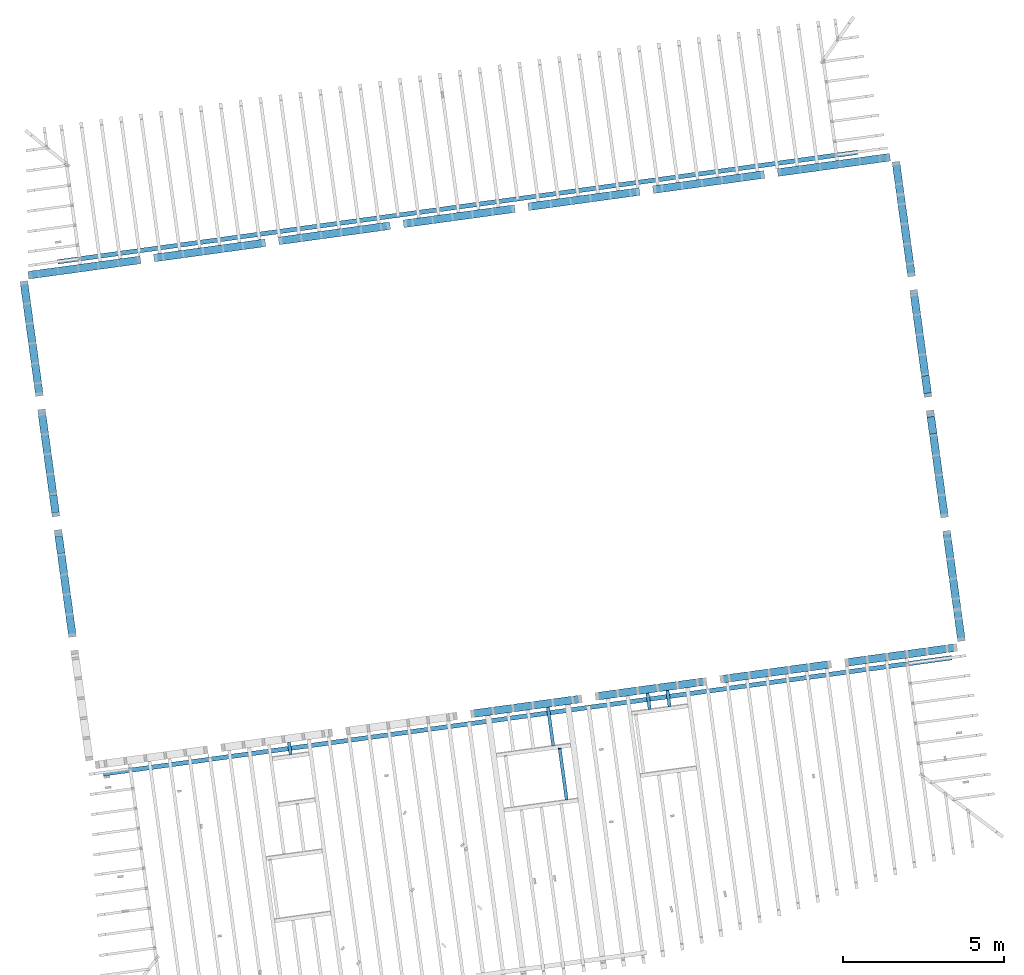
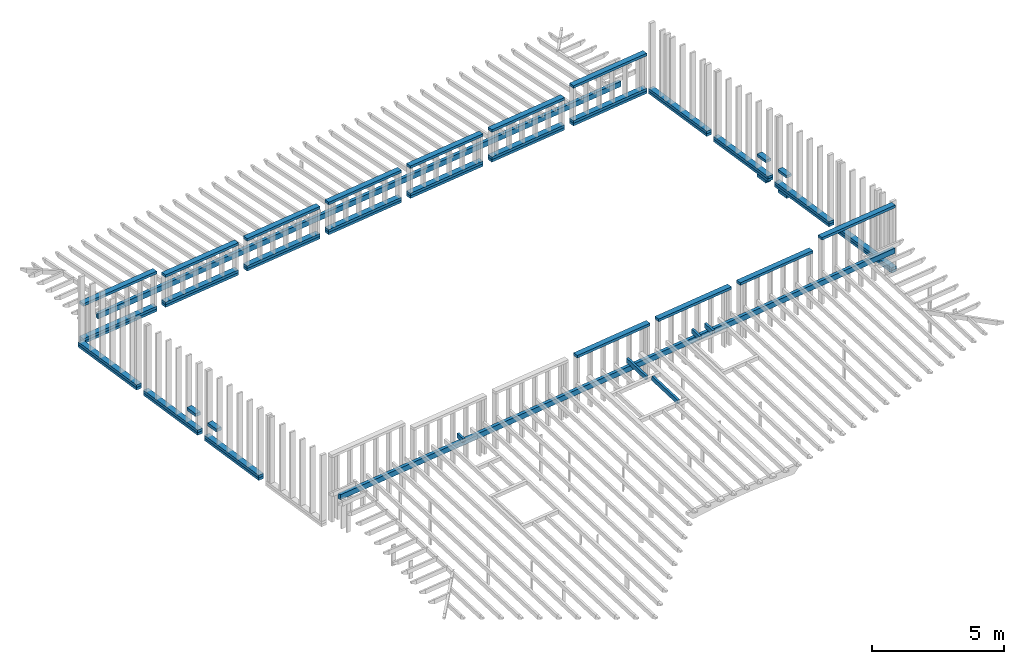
# One storey, part 5 of 16: 52 beams.
"""IFC2X3 building model written with IfcOpenShell, lengths in metres."""

from ifc_helpers import new_model, entity, si_unit, converted_unit, derived_unit, money_unit, direction, frame, frame_2d, origin_with_axes, place, context, subcontext, project, spatial, rectangle, extrude, clip, halfspace, material, type_object, element, save


model = new_model("IFC2X3")

# Units and contexts
model_context = context("Model", 3, precision=1e-05, world=origin_with_axes(), true_north=direction((0.0, 1.0)))
body_context = subcontext(model_context, "Body", "Model", "MODEL_VIEW")
ifc_project = project(units=[si_unit("LENGTHUNIT", "METRE"), si_unit("AREAUNIT", "SQUARE_METRE"), si_unit("VOLUMEUNIT", "CUBIC_METRE"), converted_unit("PLANEANGLEUNIT", "DEGREE", entity("IfcPlaneAngleMeasure", 0.0174532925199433), si_unit("PLANEANGLEUNIT", "RADIAN"), dimensions=[0, 0, 0, 0, 0, 0, 0]), money_unit("EUR"), converted_unit("TIMEUNIT", "Year", entity("IfcTimeMeasure", 31557600.0), si_unit("TIMEUNIT", "SECOND"), dimensions=[0, 0, 1, 0, 0, 0, 0]), si_unit("MASSUNIT", "GRAM", prefix="KILO"), si_unit("THERMODYNAMICTEMPERATUREUNIT", "DEGREE_CELSIUS"), si_unit("LUMINOUSINTENSITYUNIT", "LUMEN"), si_unit("ENERGYUNIT", "JOULE", prefix="MEGA"), derived_unit("THERMALCONDUCTANCEUNIT", [(si_unit("POWERUNIT", "WATT"), 1), (si_unit("LENGTHUNIT", "METRE"), -1), (si_unit("THERMODYNAMICTEMPERATUREUNIT", "KELVIN"), -1)]), derived_unit("SPECIFICHEATCAPACITYUNIT", [(si_unit("ENERGYUNIT", "JOULE"), 1), (si_unit("MASSUNIT", "GRAM", prefix="KILO"), -1), (si_unit("THERMODYNAMICTEMPERATUREUNIT", "KELVIN"), -1)]), derived_unit("MASSDENSITYUNIT", [(si_unit("MASSUNIT", "GRAM", prefix="KILO"), 1), (si_unit("VOLUMEUNIT", "CUBIC_METRE"), -1)])], contexts=[model_context])

# Site, building, storey
site_placement = place(None, origin_with_axes())
site = spatial("IfcSite", under=ifc_project, at=site_placement, Name="Gelände", CompositionType="ELEMENT")
building_placement = place(site_placement, origin_with_axes())
building = spatial("IfcBuilding", under=site, at=building_placement, Name="Gebäude", CompositionType="ELEMENT")
storey_placement = place(building_placement, frame((0.0, 0.0, 3.0), z_axis=(0.0, 0.0, 1.0), x_axis=(1.0, 0.0, 0.0)))
storey = spatial("IfcBuildingStorey", under=building, at=storey_placement, Name="ZG", CompositionType="ELEMENT", Elevation=3.0)

# Beams
ifc_material_1 = material(Name="Holz, Bauholz")
beam_type_1 = type_object("IfcBeamType", Name="Holz, Bauholz 240 x 140", PredefinedType="NOTDEFINED")
beam_1_placement = place(storey_placement, frame((85.61402918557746, -143.8817968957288, 0.9624863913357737), z_axis=(0.0, 0.0, 1.0), x_axis=(-0.990748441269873, -0.1357111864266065, 0.0)))
element("IfcBeam", 1, at=beam_1_placement, inside=storey, type_object=beam_type_1, material=ifc_material_1, Name="Unterzug-021", context=body_context, shape_type="SweptSolid", body=[
    extrude(rectangle(XDim=0.14, YDim=0.24, at=frame_2d((-0.07, 0.0), x_axis=(1.0, 0.0))), frame((0.0, 0.0, 0.0), z_axis=(0.0, 1.0, 0.0), x_axis=(0.0, 0.0, 1.0)), (0.0, 0.0, 1.0), 0.5399999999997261),
])
beam_2_placement = place(storey_placement, frame((85.43964031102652, -142.6086851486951, 0.9624863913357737), z_axis=(0.0, 0.0, 1.0), x_axis=(-0.9907484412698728, -0.1357111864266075, 0.0)))
element("IfcBeam", 2, at=beam_2_placement, inside=storey, type_object=beam_type_1, material=ifc_material_1, Name="Unterzug-021", context=body_context, shape_type="SweptSolid", body=[
    extrude(rectangle(XDim=0.14, YDim=0.24, at=frame_2d((-0.07, 0.0), x_axis=(1.0, 0.0))), frame((0.0, 0.0, 0.0), z_axis=(0.0, 1.0, 0.0), x_axis=(0.0, 0.0, 1.0)), (0.0, 0.0, 1.0), 0.5449999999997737),
])
beam_3_placement = place(storey_placement, frame((112.5504806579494, -138.8950842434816, 0.03199999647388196), z_axis=(0.0, 0.0, 1.0), x_axis=(-0.9907484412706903, -0.1357111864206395, 0.0)))
element("IfcBeam", 3, at=beam_3_placement, inside=storey, type_object=beam_type_1, material=ifc_material_1, Name="Unterzug-021", context=body_context, shape_type="SweptSolid", body=[
    extrude(rectangle(XDim=0.14, YDim=0.24, at=frame_2d((-0.07, 0.0), x_axis=(1.0, 0.0))), frame((0.0, 0.0, 0.0), z_axis=(0.0, 1.0, 0.0), x_axis=(0.0, 0.0, 1.0)), (0.0, 0.0, 1.0), 0.5450000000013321),
])
beam_4_placement = place(storey_placement, frame((112.7248695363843, -140.1681960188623, 0.03199999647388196), z_axis=(0.0, 0.0, 1.0), x_axis=(-0.9907484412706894, -0.1357111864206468, 0.0)))
element("IfcBeam", 4, at=beam_4_placement, inside=storey, type_object=beam_type_1, material=ifc_material_1, Name="Unterzug-021", context=body_context, shape_type="SweptSolid", body=[
    extrude(rectangle(XDim=0.14, YDim=0.24, at=frame_2d((-0.07, 0.0), x_axis=(1.0, 0.0))), frame((0.0, 0.0, 0.0), z_axis=(0.0, 1.0, 0.0), x_axis=(0.0, 0.0, 1.0)), (0.0, 0.0, 1.0), 0.5399999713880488),
])
beam_type_2 = type_object("IfcBeamType", Name="Holz, Bauholz 240 x 120", PredefinedType="NOTDEFINED")
beam_5_placement = place(storey_placement, frame((100.2083252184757, -133.6404391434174, 0.2719999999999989), z_axis=(0.0, 0.0, 1.0), x_axis=(0.1357111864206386, -0.9907484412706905, 0.0)))
element("IfcBeam", 5, at=beam_5_placement, inside=storey, type_object=beam_type_2, material=ifc_material_1, Name="Unterzug-035", context=body_context, shape_type="SweptSolid", body=[
    extrude(rectangle(XDim=0.12, YDim=0.24, at=frame_2d((-0.06, 0.0), x_axis=(1.0, 0.0))), frame((0.0, 0.0, 0.0), z_axis=(0.0, 1.0, 0.0), x_axis=(0.0, 0.0, 1.0)), (0.0, 0.0, 1.0), 3.494285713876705),
])
beam_6_placement = place(storey_placement, frame((112.1277403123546, -135.8089028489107, 0.2719999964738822), z_axis=(0.0, 0.0, 1.0), x_axis=(0.9907484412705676, 0.1357111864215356, 0.0)))
element("IfcBeam", 6, at=beam_6_placement, inside=storey, type_object=beam_type_2, material=ifc_material_1, Name="Unterzug-021", context=body_context, shape_type="SweptSolid", body=[
    extrude(rectangle(XDim=0.12, YDim=0.24, at=frame_2d((-0.06, 0.0), x_axis=(1.0, 0.0))), frame((0.0, 0.0, 0.0), z_axis=(0.0, 1.0, 0.0), x_axis=(0.0, 0.0, 1.0)), (0.0, 0.0, 1.0), 3.604000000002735),
])
beam_7_placement = place(storey_placement, frame((84.6663128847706, -135.7693599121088, 0.2719999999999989), z_axis=(0.0, 0.0, 1.0), x_axis=(0.1357111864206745, -0.9907484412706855, 0.0)))
element("IfcBeam", 7, at=beam_7_placement, inside=storey, type_object=beam_type_2, material=ifc_material_1, Name="Unterzug-035", context=body_context, shape_type="SweptSolid", body=[
    extrude(rectangle(XDim=0.12, YDim=0.24, at=frame_2d((-0.06, 0.0), x_axis=(1.0, 0.0))), frame((0.0, 0.0, 0.0), z_axis=(0.0, 1.0, 0.0), x_axis=(0.0, 0.0, 1.0)), (0.0, 0.0, 1.0), 3.524285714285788),
])
beam_8_placement = place(storey_placement, frame((85.0168999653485, -139.5225037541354, 0.2719999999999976), z_axis=(0.0, 0.0, 1.0), x_axis=(0.9907484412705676, 0.1357111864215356, 0.0)))
element("IfcBeam", 8, at=beam_8_placement, inside=storey, type_object=beam_type_2, material=ifc_material_1, Name="Unterzug-021", context=body_context, shape_type="SweptSolid", body=[
    extrude(rectangle(XDim=0.12, YDim=0.24, at=frame_2d((-0.06, 0.0), x_axis=(1.0, 0.0))), frame((0.0, 0.0, 0.0), z_axis=(0.0, 1.0, 0.0), x_axis=(0.0, 0.0, 1.0)), (0.0, 0.0, 1.0), 3.604000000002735),
])
beam_9_placement = place(storey_placement, frame((85.07389866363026, -139.9386180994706, 0.2719999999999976), z_axis=(0.0, 0.0, 1.0), x_axis=(-0.9907484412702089, -0.1357111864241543, 0.0)))
element("IfcBeam", 9, at=beam_9_placement, inside=storey, type_object=beam_type_2, material=ifc_material_1, Name="Unterzug-021", context=body_context, shape_type="SweptSolid", body=[
    extrude(rectangle(XDim=0.12, YDim=0.24, at=frame_2d((-0.06, 0.0), x_axis=(1.0, 0.0))), frame((0.0, 0.0, 0.0), z_axis=(0.0, 1.0, 0.0), x_axis=(0.0, 0.0, 1.0)), (0.0, 0.0, 1.0), 3.359999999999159),
])
beam_10_placement = place(storey_placement, frame((85.5868869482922, -143.6836472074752, 0.2719999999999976), z_axis=(0.0, 0.0, 1.0), x_axis=(-0.9907484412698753, -0.1357111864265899, 0.0)))
element("IfcBeam", 10, at=beam_10_placement, inside=storey, type_object=beam_type_2, material=ifc_material_1, Name="Unterzug-021", context=body_context, shape_type="SweptSolid", body=[
    extrude(rectangle(XDim=0.12, YDim=0.24, at=frame_2d((-0.06, 0.0), x_axis=(1.0, 0.0))), frame((0.0, 0.0, 0.0), z_axis=(0.0, 1.0, 0.0), x_axis=(0.0, 0.0, 1.0)), (0.0, 0.0, 1.0), 3.359999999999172),
])
beam_11_placement = place(storey_placement, frame((112.5504806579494, -138.8950842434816, 0.952486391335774), z_axis=(0.0, 0.0, 1.0), x_axis=(-0.9907484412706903, -0.1357111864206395, 0.0)))
element("IfcBeam", 11, at=beam_11_placement, inside=storey, type_object=beam_type_2, material=ifc_material_1, Name="Unterzug-021", context=body_context, shape_type="SweptSolid", body=[
    extrude(rectangle(XDim=0.12, YDim=0.24, at=frame_2d((-0.06, 0.0), x_axis=(1.0, 0.0))), frame((0.0, 0.0, 0.0), z_axis=(0.0, 1.0, 0.0), x_axis=(0.0, 0.0, 1.0)), (0.0, 0.0, 1.0), 0.5450000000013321),
])
beam_12_placement = place(storey_placement, frame((112.7248695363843, -140.1681960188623, 0.952486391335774), z_axis=(0.0, 0.0, 1.0), x_axis=(-0.9907484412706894, -0.1357111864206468, 0.0)))
element("IfcBeam", 12, at=beam_12_placement, inside=storey, type_object=beam_type_2, material=ifc_material_1, Name="Unterzug-021", context=body_context, shape_type="SweptSolid", body=[
    extrude(rectangle(XDim=0.12, YDim=0.24, at=frame_2d((-0.06, 0.0), x_axis=(1.0, 0.0))), frame((0.0, 0.0, 0.0), z_axis=(0.0, 1.0, 0.0), x_axis=(0.0, 0.0, 1.0)), (0.0, 0.0, 1.0), 0.5399999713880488),
])
beam_13_placement = place(storey_placement, frame((96.3302527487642, -134.1716515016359, 0.2719999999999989), z_axis=(0.0, 0.0, 1.0), x_axis=(0.1357111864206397, -0.9907484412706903, 0.0)))
element("IfcBeam", 13, at=beam_13_placement, inside=storey, type_object=beam_type_2, material=ifc_material_1, Name="Unterzug-035", context=body_context, shape_type="SweptSolid", body=[
    extrude(rectangle(XDim=0.12, YDim=0.24, at=frame_2d((-0.06, 0.0), x_axis=(1.0, 0.0))), frame((0.0, 0.0, 0.0), z_axis=(0.0, 1.0, 0.0), x_axis=(0.0, 0.0, 1.0)), (0.0, 0.0, 1.0), 3.494285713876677),
])
beam_14_placement = place(storey_placement, frame((92.4521802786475, -134.702863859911, 0.2719999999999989), z_axis=(0.0, 0.0, 1.0), x_axis=(0.1357111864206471, -0.9907484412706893, 0.0)))
element("IfcBeam", 14, at=beam_14_placement, inside=storey, type_object=beam_type_2, material=ifc_material_1, Name="Unterzug-035", context=body_context, shape_type="SweptSolid", body=[
    extrude(rectangle(XDim=0.12, YDim=0.24, at=frame_2d((-0.06, 0.0), x_axis=(1.0, 0.0))), frame((0.0, 0.0, 0.0), z_axis=(0.0, 1.0, 0.0), x_axis=(0.0, 0.0, 1.0)), (0.0, 0.0, 1.0), 3.494285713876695),
])
beam_15_placement = place(storey_placement, frame((88.57410780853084, -135.2340762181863, 0.2719999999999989), z_axis=(0.0, 0.0, 1.0), x_axis=(0.1357111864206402, -0.9907484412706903, 0.0)))
element("IfcBeam", 15, at=beam_15_placement, inside=storey, type_object=beam_type_2, material=ifc_material_1, Name="Unterzug-035", context=body_context, shape_type="SweptSolid", body=[
    extrude(rectangle(XDim=0.12, YDim=0.24, at=frame_2d((-0.06, 0.0), x_axis=(1.0, 0.0))), frame((0.0, 0.0, 0.0), z_axis=(0.0, 1.0, 0.0), x_axis=(0.0, 0.0, 1.0)), (0.0, 0.0, 1.0), 3.494285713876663),
])
beam_16_placement = place(storey_placement, frame((104.0863976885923, -133.109226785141, 0.2719999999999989), z_axis=(0.0, 0.0, 1.0), x_axis=(0.1357111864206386, -0.9907484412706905, 0.0)))
element("IfcBeam", 16, at=beam_16_placement, inside=storey, type_object=beam_type_2, material=ifc_material_1, Name="Unterzug-035", context=body_context, shape_type="SweptSolid", body=[
    extrude(rectangle(XDim=0.12, YDim=0.24, at=frame_2d((-0.06, 0.0), x_axis=(1.0, 0.0))), frame((0.0, 0.0, 0.0), z_axis=(0.0, 1.0, 0.0), x_axis=(0.0, 0.0, 1.0)), (0.0, 0.0, 1.0), 3.494285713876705),
])
beam_17_placement = place(storey_placement, frame((112.6977272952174, -139.9700463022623, 0.2719999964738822), z_axis=(0.0, 0.0, 1.0), x_axis=(-0.9907484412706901, -0.1357111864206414, 0.0)))
element("IfcBeam", 17, at=beam_17_placement, inside=storey, type_object=beam_type_2, material=ifc_material_1, Name="Unterzug-021", context=body_context, shape_type="SweptSolid", body=[
    extrude(rectangle(XDim=0.12, YDim=0.24, at=frame_2d((-0.06, 0.0), x_axis=(1.0, 0.0))), frame((0.0, 0.0, 0.0), z_axis=(0.0, 1.0, 0.0), x_axis=(0.0, 0.0, 1.0)), (0.0, 0.0, 1.0), 3.35999999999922),
])
beam_18_placement = place(storey_placement, frame((107.9644701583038, -132.5780144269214, 0.2719999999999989), z_axis=(0.0, 0.0, 1.0), x_axis=(0.1357111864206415, -0.9907484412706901, 0.0)))
element("IfcBeam", 18, at=beam_18_placement, inside=storey, type_object=beam_type_2, material=ifc_material_1, Name="Unterzug-035", context=body_context, shape_type="SweptSolid", body=[
    extrude(rectangle(XDim=0.12, YDim=0.24, at=frame_2d((-0.06, 0.0), x_axis=(1.0, 0.0))), frame((0.0, 0.0, 0.0), z_axis=(0.0, 1.0, 0.0), x_axis=(0.0, 0.0, 1.0)), (0.0, 0.0, 1.0), 3.524285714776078),
])
beam_19_placement = place(storey_placement, frame((113.2107155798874, -143.7150754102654, 0.2719999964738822), z_axis=(0.0, 0.0, 1.0), x_axis=(-0.9907484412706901, -0.135711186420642, 0.0)))
element("IfcBeam", 19, at=beam_19_placement, inside=storey, type_object=beam_type_2, material=ifc_material_1, Name="Unterzug-021", context=body_context, shape_type="SweptSolid", body=[
    extrude(rectangle(XDim=0.12, YDim=0.24, at=frame_2d((-0.06, 0.0), x_axis=(1.0, 0.0))), frame((0.0, 0.0, 0.0), z_axis=(0.0, 1.0, 0.0), x_axis=(0.0, 0.0, 1.0)), (0.0, 0.0, 1.0), 3.459999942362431),
])
beam_20_placement = place(storey_placement, frame((112.1847390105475, -136.2250171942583, 0.2719999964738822), z_axis=(0.0, 0.0, 1.0), x_axis=(-0.9907484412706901, -0.1357111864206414, 0.0)))
element("IfcBeam", 20, at=beam_20_placement, inside=storey, type_object=beam_type_2, material=ifc_material_1, Name="Unterzug-021", context=body_context, shape_type="SweptSolid", body=[
    extrude(rectangle(XDim=0.12, YDim=0.24, at=frame_2d((-0.06, 0.0), x_axis=(1.0, 0.0))), frame((0.0, 0.0, 0.0), z_axis=(0.0, 1.0, 0.0), x_axis=(0.0, 0.0, 1.0)), (0.0, 0.0, 1.0), 3.35999999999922),
])
ifc_material_2 = material(Name="Holz, Bauholz-hart")
beam_type_3 = type_object("IfcBeamType", Name="Holz, Bauholz-hart 240 x 120", PredefinedType="NOTDEFINED")
beam_21_placement = place(storey_placement, frame((112.1277403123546, -135.8089028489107, 0.1519999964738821), z_axis=(0.0, 0.0, 1.0), x_axis=(0.9907484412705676, 0.1357111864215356, 0.0)))
element("IfcBeam", 21, at=beam_21_placement, inside=storey, type_object=beam_type_3, material=ifc_material_2, Name="Unterzug-021", context=body_context, shape_type="SweptSolid", body=[
    extrude(rectangle(XDim=0.12, YDim=0.24, at=frame_2d((-0.06, 0.0), x_axis=(1.0, 0.0))), frame((0.0, 0.0, 0.0), z_axis=(0.0, 1.0, 0.0), x_axis=(0.0, 0.0, 1.0)), (0.0, 0.0, 1.0), 3.604000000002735),
])
beam_22_placement = place(storey_placement, frame((85.07389866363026, -139.9386180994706, 0.1519999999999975), z_axis=(0.0, 0.0, 1.0), x_axis=(-0.9907484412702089, -0.1357111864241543, 0.0)))
element("IfcBeam", 22, at=beam_22_placement, inside=storey, type_object=beam_type_3, material=ifc_material_2, Name="Unterzug-021", context=body_context, shape_type="SweptSolid", body=[
    extrude(rectangle(XDim=0.12, YDim=0.24, at=frame_2d((-0.06, 0.0), x_axis=(1.0, 0.0))), frame((0.0, 0.0, 0.0), z_axis=(0.0, 1.0, 0.0), x_axis=(0.0, 0.0, 1.0)), (0.0, 0.0, 1.0), 3.359999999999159),
])
beam_23_placement = place(storey_placement, frame((112.6977272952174, -139.9700463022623, 0.1519999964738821), z_axis=(0.0, 0.0, 1.0), x_axis=(-0.9907484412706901, -0.1357111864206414, 0.0)))
element("IfcBeam", 23, at=beam_23_placement, inside=storey, type_object=beam_type_3, material=ifc_material_2, Name="Unterzug-021", context=body_context, shape_type="SweptSolid", body=[
    extrude(rectangle(XDim=0.12, YDim=0.24, at=frame_2d((-0.06, 0.0), x_axis=(1.0, 0.0))), frame((0.0, 0.0, 0.0), z_axis=(0.0, 1.0, 0.0), x_axis=(0.0, 0.0, 1.0)), (0.0, 0.0, 1.0), 3.35999999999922),
])
beam_24_placement = place(storey_placement, frame((113.2107155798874, -143.7150754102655, 0.1520003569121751), z_axis=(0.0, 0.0, 1.0), x_axis=(-0.9907484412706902, -0.1357111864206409, 0.0)))
element("IfcBeam", 24, at=beam_24_placement, inside=storey, type_object=beam_type_3, material=ifc_material_2, Name="Unterzug-021", context=body_context, shape_type="SweptSolid", body=[
    extrude(rectangle(XDim=0.1200003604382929, YDim=0.24, at=frame_2d((-0.06000018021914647, 0.0), x_axis=(1.0, 0.0))), frame((0.0, 0.0, 0.0), z_axis=(0.0, 1.0, 0.0), x_axis=(0.0, 0.0, 1.0)), (0.0, 0.0, 1.0), 3.45999994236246),
])
beam_25_placement = place(storey_placement, frame((112.1847390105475, -136.2250171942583, 0.1519999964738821), z_axis=(0.0, 0.0, 1.0), x_axis=(-0.9907484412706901, -0.1357111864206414, 0.0)))
element("IfcBeam", 25, at=beam_25_placement, inside=storey, type_object=beam_type_3, material=ifc_material_2, Name="Unterzug-021", context=body_context, shape_type="SweptSolid", body=[
    extrude(rectangle(XDim=0.12, YDim=0.24, at=frame_2d((-0.06, 0.0), x_axis=(1.0, 0.0))), frame((0.0, 0.0, 0.0), z_axis=(0.0, 1.0, 0.0), x_axis=(0.0, 0.0, 1.0)), (0.0, 0.0, 1.0), 3.35999999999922),
])
beam_26_placement = place(storey_placement, frame((85.0168999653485, -139.5225037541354, 0.1519999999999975), z_axis=(0.0, 0.0, 1.0), x_axis=(0.9907484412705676, 0.1357111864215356, 0.0)))
element("IfcBeam", 26, at=beam_26_placement, inside=storey, type_object=beam_type_3, material=ifc_material_2, Name="Unterzug-021", context=body_context, shape_type="SweptSolid", body=[
    extrude(rectangle(XDim=0.12, YDim=0.24, at=frame_2d((-0.06, 0.0), x_axis=(1.0, 0.0))), frame((0.0, 0.0, 0.0), z_axis=(0.0, 1.0, 0.0), x_axis=(0.0, 0.0, 1.0)), (0.0, 0.0, 1.0), 3.604000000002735),
])
beam_27_placement = place(storey_placement, frame((85.5868869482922, -143.6836472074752, 0.1519999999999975), z_axis=(0.0, 0.0, 1.0), x_axis=(-0.9907484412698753, -0.1357111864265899, 0.0)))
element("IfcBeam", 27, at=beam_27_placement, inside=storey, type_object=beam_type_3, material=ifc_material_2, Name="Unterzug-021", context=body_context, shape_type="SweptSolid", body=[
    extrude(rectangle(XDim=0.12, YDim=0.24, at=frame_2d((-0.06, 0.0), x_axis=(1.0, 0.0))), frame((0.0, 0.0, 0.0), z_axis=(0.0, 1.0, 0.0), x_axis=(0.0, 0.0, 1.0)), (0.0, 0.0, 1.0), 3.359999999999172),
])
beam_type_4 = type_object("IfcBeamType", Name="Holz, Bauholz-hart 100 x 200", PredefinedType="NOTDEFINED")
beam_28_placement = place(storey_placement, frame((103.9845354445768, -149.2641386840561, 1.754417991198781), z_axis=(0.0, 0.0, 1.0), x_axis=(0.990748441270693, 0.1357111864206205, 0.0)))
element("IfcBeam", 28, at=beam_28_placement, inside=storey, type_object=beam_type_4, material=ifc_material_2, Name="Unterzug-034", context=body_context, shape_type="Clipping", body=[
    clip(extrude(rectangle(XDim=0.2, YDim=0.1, at=frame_2d((-0.1, 0.0), x_axis=(1.0, 0.0))), frame((0.0, 0.0, 0.0), z_axis=(0.0, 0.9902680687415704, 0.1391731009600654), x_axis=(0.0, -0.1391731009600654, 0.9902680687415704)), (0.0, 0.0, 1.0), 0.5483304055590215), halfspace(frame((0.0, 0.5036299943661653, 0.0), z_axis=(0.0, -1.0, 0.0), x_axis=(0.0, 0.0, -1.0)), True)),
])
beam_29_placement = place(storey_placement, frame((104.6037533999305, -149.1793205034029, 1.754417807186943), z_axis=(0.0, 0.0, 1.0), x_axis=(0.990748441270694, 0.1357111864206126, 0.0)))
element("IfcBeam", 29, at=beam_29_placement, inside=storey, type_object=beam_type_4, material=ifc_material_2, Name="Unterzug-034", context=body_context, shape_type="Clipping", body=[
    clip(extrude(rectangle(XDim=0.2, YDim=0.1, at=frame_2d((-0.1, 0.0), x_axis=(1.0, 0.0))), frame((0.0, 0.0, 0.0), z_axis=(0.0, 0.9902680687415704, 0.1391731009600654), x_axis=(0.0, -0.1391731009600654, 0.9902680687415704)), (0.0, 0.0, 1.0), 0.5483317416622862), halfspace(frame((0.0, 0.5036313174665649, 0.0), z_axis=(0.0, -1.0, 0.0), x_axis=(0.0, 0.0, -1.0)), True)),
])
beam_30_placement = place(storey_placement, frame((92.82216524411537, -150.6707959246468, 1.771453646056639), z_axis=(0.0, 0.0, 1.0), x_axis=(0.9907484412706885, 0.1357111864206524, 0.0)))
element("IfcBeam", 30, at=beam_30_placement, inside=storey, type_object=beam_type_4, material=ifc_material_2, Name="Unterzug-034", context=body_context, shape_type="Clipping", body=[
    clip(extrude(rectangle(XDim=0.2, YDim=0.1, at=frame_2d((-0.1, 0.0), x_axis=(1.0, 0.0))), frame((0.0, 0.0, 0.0), z_axis=(0.0, 0.9902680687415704, 0.1391731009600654), x_axis=(0.0, -0.1391731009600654, 0.9902680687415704)), (0.0, 0.0, 1.0), 0.4259241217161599), halfspace(frame((0.0, 0.3824149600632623, 0.0), z_axis=(0.0, -1.0, 0.0), x_axis=(0.0, 0.0, -1.0)), True)),
])
beam_31_placement = place(storey_placement, frame((101.4048739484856, -152.0812304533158, 1.411366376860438), z_axis=(0.0, 0.0, 1.0), x_axis=(0.9907484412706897, 0.1357111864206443, 0.0)))
element("IfcBeam", 31, at=beam_31_placement, inside=storey, type_object=beam_type_4, material=ifc_material_2, Name="Unterzug-034", context=body_context, shape_type="SweptSolid", body=[
    extrude(rectangle(XDim=0.2, YDim=0.1, at=frame_2d((-0.1, 0.0), x_axis=(1.0, 0.0))), frame((0.0, 0.0, 0.0), z_axis=(0.0, 0.9902680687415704, 0.1391731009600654), x_axis=(0.0, -0.1391731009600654, 0.9902680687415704)), (0.0, 0.0, 1.0), 1.618768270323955),
])
beam_32_placement = place(storey_placement, frame((100.9860350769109, -150.400673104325, 1.653356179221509), z_axis=(0.0, 0.0, 1.0), x_axis=(0.9907484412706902, 0.135711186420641, 0.0)))
element("IfcBeam", 32, at=beam_32_placement, inside=storey, type_object=beam_type_4, material=ifc_material_2, Name="Unterzug-034", context=body_context, shape_type="Clipping", body=[
    clip(extrude(rectangle(XDim=0.2, YDim=0.1, at=frame_2d((-0.1, 0.0), x_axis=(1.0, 0.0))), frame((0.0, 0.0, 0.0), z_axis=(0.0, 0.9902680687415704, 0.1391731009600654), x_axis=(0.0, -0.1391731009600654, 0.9902680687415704)), (0.0, 0.0, 1.0), 1.261864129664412), halfspace(frame((0.0, 1.21021965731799, 0.0), z_axis=(0.0, -1.0, 0.0), x_axis=(0.0, 0.0, -1.0)), True)),
])
ifc_material_3 = material(Name="Bauholz")
beam_type_5 = type_object("IfcBeamType", Name="Bauholz 140 x 240", PredefinedType="NOTDEFINED")
beam_33_placement = place(storey_placement, frame((110.4652288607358, -132.0154288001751, 0.8228181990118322), z_axis=(0.0, 0.0, 1.0), x_axis=(-0.1357111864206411, 0.9907484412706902, 0.0)))
element("IfcBeam", 33, at=beam_33_placement, inside=storey, type_object=beam_type_5, material=ifc_material_3, Name="Unterzug-035", context=body_context, shape_type="SweptSolid", body=[
    extrude(rectangle(XDim=0.24, YDim=0.14, at=frame_2d((-0.12, 0.07), x_axis=(1.0, 0.0))), frame((0.0, 0.0, 0.0), z_axis=(0.0, 1.0, 0.0), x_axis=(0.0, 0.0, 1.0)), (0.0, 0.0, 1.0), 25.09937243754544),
])
beam_34_placement = place(storey_placement, frame((113.3635255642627, -147.5901881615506, 1.606648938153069), z_axis=(0.0, 0.0, 1.0), x_axis=(-0.1357111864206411, 0.9907484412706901, 0.0)))
element("IfcBeam", 34, at=beam_34_placement, inside=storey, type_object=beam_type_5, material=ifc_material_3, Name="Unterzug-035", context=body_context, shape_type="SweptSolid", body=[
    extrude(rectangle(XDim=0.24, YDim=0.14, at=frame_2d((-0.12, -0.07), x_axis=(1.0, 0.0))), frame((0.0, 0.0, 0.0), z_axis=(0.0, 1.0, 0.0), x_axis=(0.0, 0.0, 1.0)), (0.0, 0.0, 1.0), 26.61499693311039),
])
beam_type_6 = type_object("IfcBeamType", Name="Bauholz 240 x 120", PredefinedType="NOTDEFINED")
beam_35_placement = place(storey_placement, frame((84.66631288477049, -135.7693599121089, 0.1519999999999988), z_axis=(0.0, 0.0, 1.0), x_axis=(0.1357111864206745, -0.9907484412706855, 0.0)))
element("IfcBeam", 35, at=beam_35_placement, inside=storey, type_object=beam_type_6, material=ifc_material_3, Name="Unterzug-035", context=body_context, shape_type="SweptSolid", body=[
    extrude(rectangle(XDim=0.12, YDim=0.24, at=frame_2d((-0.06, 0.0), x_axis=(1.0, 0.0))), frame((0.0, 0.0, 0.0), z_axis=(0.0, 1.0, 0.0), x_axis=(0.0, 0.0, 1.0)), (0.0, 0.0, 1.0), 3.524285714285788),
])
beam_36_placement = place(storey_placement, frame((110.0517760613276, -147.8162208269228, 3.373933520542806), z_axis=(0.0, 0.0, 1.0), x_axis=(0.1357111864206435, -0.9907484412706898, 0.0)))
element("IfcBeam", 36, at=beam_36_placement, inside=storey, type_object=beam_type_6, material=ifc_material_3, Name="Unterzug-035", context=body_context, shape_type="SweptSolid", body=[
    extrude(rectangle(XDim=0.12, YDim=0.24, at=frame_2d((-0.06, 0.0), x_axis=(1.0, 0.0))), frame((0.0, 0.0, 0.0), z_axis=(0.0, 1.0, 0.0), x_axis=(0.0, 0.0, 1.0)), (0.0, 0.0, 1.0), 3.524285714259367),
])
beam_37_placement = place(storey_placement, frame((106.1720071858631, -148.3350487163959, 2.953933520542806), z_axis=(0.0, 0.0, 1.0), x_axis=(0.1357111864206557, -0.9907484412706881, 0.0)))
element("IfcBeam", 37, at=beam_37_placement, inside=storey, type_object=beam_type_6, material=ifc_material_3, Name="Unterzug-035", context=body_context, shape_type="SweptSolid", body=[
    extrude(rectangle(XDim=0.12, YDim=0.24, at=frame_2d((-0.06, 0.0), x_axis=(1.0, 0.0))), frame((0.0, 0.0, 0.0), z_axis=(0.0, 1.0, 0.0), x_axis=(0.0, 0.0, 1.0)), (0.0, 0.0, 1.0), 3.494057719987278),
])
beam_38_placement = place(storey_placement, frame((102.2939347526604, -148.8662613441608, 2.953933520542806), z_axis=(0.0, 0.0, 1.0), x_axis=(0.1357111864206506, -0.9907484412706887, 0.0)))
element("IfcBeam", 38, at=beam_38_placement, inside=storey, type_object=beam_type_6, material=ifc_material_3, Name="Unterzug-035", context=body_context, shape_type="SweptSolid", body=[
    extrude(rectangle(XDim=0.12, YDim=0.24, at=frame_2d((-0.06, 0.0), x_axis=(1.0, 0.0))), frame((0.0, 0.0, 0.0), z_axis=(0.0, 1.0, 0.0), x_axis=(0.0, 0.0, 1.0)), (0.0, 0.0, 1.0), 3.494285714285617),
])
beam_39_placement = place(storey_placement, frame((98.41755864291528, -149.4098578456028, 2.953933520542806), z_axis=(0.0, 0.0, 1.0), x_axis=(0.1357111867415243, -0.990748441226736, 0.0)))
element("IfcBeam", 39, at=beam_39_placement, inside=storey, type_object=beam_type_6, material=ifc_material_3, Name="Unterzug-035", context=body_context, shape_type="SweptSolid", body=[
    extrude(rectangle(XDim=0.12, YDim=0.24, at=frame_2d((-0.06, 0.0), x_axis=(1.0, 0.0))), frame((0.0, 0.0, 0.0), z_axis=(0.0, 1.0, 0.0), x_axis=(0.0, 0.0, 1.0)), (0.0, 0.0, 1.0), 3.494285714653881),
])
beam_40_placement = place(storey_placement, frame((84.6663128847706, -135.7693599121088, 1.891550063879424), z_axis=(0.0, 0.0, 1.0), x_axis=(0.1357111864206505, -0.9907484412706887, 0.0)))
element("IfcBeam", 40, at=beam_40_placement, inside=storey, type_object=beam_type_6, material=ifc_material_3, Name="Unterzug-035", context=body_context, shape_type="SweptSolid", body=[
    extrude(rectangle(XDim=0.12, YDim=0.24, at=frame_2d((-0.06, 0.0), x_axis=(1.0, 0.0))), frame((0.0, 0.0, 0.0), z_axis=(0.0, 1.0, 0.0), x_axis=(0.0, 0.0, 1.0)), (0.0, 0.0, 1.0), 3.524285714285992),
])
beam_41_placement = place(storey_placement, frame((107.9644702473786, -132.5780144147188, 1.891550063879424), z_axis=(0.0, 0.0, 1.0), x_axis=(0.1357111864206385, -0.9907484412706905, 0.0)))
element("IfcBeam", 41, at=beam_41_placement, inside=storey, type_object=beam_type_6, material=ifc_material_3, Name="Unterzug-035", context=body_context, shape_type="SweptSolid", body=[
    extrude(rectangle(XDim=0.12, YDim=0.24, at=frame_2d((-0.06, 0.0), x_axis=(1.0, 0.0))), frame((0.0, 0.0, 0.0), z_axis=(0.0, 1.0, 0.0), x_axis=(0.0, 0.0, 1.0)), (0.0, 0.0, 1.0), 3.524285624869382),
])
beam_42_placement = place(storey_placement, frame((92.45218027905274, -134.7028638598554, 1.536011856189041), z_axis=(0.0, 0.0, 1.0), x_axis=(0.1357111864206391, -0.9907484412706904, 0.0)))
element("IfcBeam", 42, at=beam_42_placement, inside=storey, type_object=beam_type_6, material=ifc_material_3, Name="Unterzug-035", context=body_context, shape_type="SweptSolid", body=[
    extrude(rectangle(XDim=0.12, YDim=0.24, at=frame_2d((-0.06, 0.0), x_axis=(1.0, 0.0))), frame((0.0, 0.0, 0.0), z_axis=(0.0, 1.0, 0.0), x_axis=(0.0, 0.0, 1.0)), (0.0, 0.0, 1.0), 3.494285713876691),
])
beam_43_placement = place(storey_placement, frame((88.57410780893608, -135.2340762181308, 1.536011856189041), z_axis=(0.0, 0.0, 1.0), x_axis=(0.1357111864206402, -0.9907484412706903, 0.0)))
element("IfcBeam", 43, at=beam_43_placement, inside=storey, type_object=beam_type_6, material=ifc_material_3, Name="Unterzug-035", context=body_context, shape_type="SweptSolid", body=[
    extrude(rectangle(XDim=0.12, YDim=0.24, at=frame_2d((-0.06, 0.0), x_axis=(1.0, 0.0))), frame((0.0, 0.0, 0.0), z_axis=(0.0, 1.0, 0.0), x_axis=(0.0, 0.0, 1.0)), (0.0, 0.0, 1.0), 3.494285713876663),
])
beam_44_placement = place(storey_placement, frame((104.0863976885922, -133.10922678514, 1.536011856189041), z_axis=(0.0, 0.0, 1.0), x_axis=(0.1357111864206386, -0.9907484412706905, 0.0)))
element("IfcBeam", 44, at=beam_44_placement, inside=storey, type_object=beam_type_6, material=ifc_material_3, Name="Unterzug-035", context=body_context, shape_type="SweptSolid", body=[
    extrude(rectangle(XDim=0.12, YDim=0.24, at=frame_2d((-0.06, 0.0), x_axis=(1.0, 0.0))), frame((0.0, 0.0, 0.0), z_axis=(0.0, 1.0, 0.0), x_axis=(0.0, 0.0, 1.0)), (0.0, 0.0, 1.0), 3.494285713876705),
])
beam_45_placement = place(storey_placement, frame((100.2083252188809, -133.6404391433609, 1.536011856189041), z_axis=(0.0, 0.0, 1.0), x_axis=(0.1357111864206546, -0.9907484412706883, 0.0)))
element("IfcBeam", 45, at=beam_45_placement, inside=storey, type_object=beam_type_6, material=ifc_material_3, Name="Unterzug-035", context=body_context, shape_type="SweptSolid", body=[
    extrude(rectangle(XDim=0.12, YDim=0.24, at=frame_2d((-0.06, 0.0), x_axis=(1.0, 0.0))), frame((0.0, 0.0, 0.0), z_axis=(0.0, 1.0, 0.0), x_axis=(0.0, 0.0, 1.0)), (0.0, 0.0, 1.0), 3.494285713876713),
])
beam_46_placement = place(storey_placement, frame((96.33025274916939, -134.1716515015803, 1.536011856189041), z_axis=(0.0, 0.0, 1.0), x_axis=(0.1357111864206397, -0.9907484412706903, 0.0)))
element("IfcBeam", 46, at=beam_46_placement, inside=storey, type_object=beam_type_6, material=ifc_material_3, Name="Unterzug-035", context=body_context, shape_type="SweptSolid", body=[
    extrude(rectangle(XDim=0.12, YDim=0.24, at=frame_2d((-0.06, 0.0), x_axis=(1.0, 0.0))), frame((0.0, 0.0, 0.0), z_axis=(0.0, 1.0, 0.0), x_axis=(0.0, 0.0, 1.0)), (0.0, 0.0, 1.0), 3.494285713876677),
])
beam_47_placement = place(storey_placement, frame((100.2083252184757, -133.6404391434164, 0.1519999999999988), z_axis=(0.0, 0.0, 1.0), x_axis=(0.1357111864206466, -0.9907484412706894, 0.0)))
element("IfcBeam", 47, at=beam_47_placement, inside=storey, type_object=beam_type_6, material=ifc_material_3, Name="Unterzug-035", context=body_context, shape_type="SweptSolid", body=[
    extrude(rectangle(XDim=0.12, YDim=0.24, at=frame_2d((-0.06, 0.0), x_axis=(1.0, 0.0))), frame((0.0, 0.0, 0.0), z_axis=(0.0, 1.0, 0.0), x_axis=(0.0, 0.0, 1.0)), (0.0, 0.0, 1.0), 3.494285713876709),
])
beam_48_placement = place(storey_placement, frame((92.4521802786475, -134.7028638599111, 0.1519999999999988), z_axis=(0.0, 0.0, 1.0), x_axis=(0.1357111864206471, -0.9907484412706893, 0.0)))
element("IfcBeam", 48, at=beam_48_placement, inside=storey, type_object=beam_type_6, material=ifc_material_3, Name="Unterzug-035", context=body_context, shape_type="SweptSolid", body=[
    extrude(rectangle(XDim=0.12, YDim=0.24, at=frame_2d((-0.06, 0.0), x_axis=(1.0, 0.0))), frame((0.0, 0.0, 0.0), z_axis=(0.0, 1.0, 0.0), x_axis=(0.0, 0.0, 1.0)), (0.0, 0.0, 1.0), 3.494285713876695),
])
beam_49_placement = place(storey_placement, frame((96.3302527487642, -134.1716515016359, 0.1519999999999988), z_axis=(0.0, 0.0, 1.0), x_axis=(0.1357111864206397, -0.9907484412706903, 0.0)))
element("IfcBeam", 49, at=beam_49_placement, inside=storey, type_object=beam_type_6, material=ifc_material_3, Name="Unterzug-035", context=body_context, shape_type="SweptSolid", body=[
    extrude(rectangle(XDim=0.12, YDim=0.24, at=frame_2d((-0.06, 0.0), x_axis=(1.0, 0.0))), frame((0.0, 0.0, 0.0), z_axis=(0.0, 1.0, 0.0), x_axis=(0.0, 0.0, 1.0)), (0.0, 0.0, 1.0), 3.494285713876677),
])
beam_50_placement = place(storey_placement, frame((88.57410780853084, -135.2340762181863, 0.1519999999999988), z_axis=(0.0, 0.0, 1.0), x_axis=(0.1357111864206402, -0.9907484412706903, 0.0)))
element("IfcBeam", 50, at=beam_50_placement, inside=storey, type_object=beam_type_6, material=ifc_material_3, Name="Unterzug-035", context=body_context, shape_type="SweptSolid", body=[
    extrude(rectangle(XDim=0.12, YDim=0.24, at=frame_2d((-0.06, 0.0), x_axis=(1.0, 0.0))), frame((0.0, 0.0, 0.0), z_axis=(0.0, 1.0, 0.0), x_axis=(0.0, 0.0, 1.0)), (0.0, 0.0, 1.0), 3.494285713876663),
])
beam_51_placement = place(storey_placement, frame((107.9644701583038, -132.5780144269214, 0.1519999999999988), z_axis=(0.0, 0.0, 1.0), x_axis=(0.1357111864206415, -0.9907484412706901, 0.0)))
element("IfcBeam", 51, at=beam_51_placement, inside=storey, type_object=beam_type_6, material=ifc_material_3, Name="Unterzug-035", context=body_context, shape_type="SweptSolid", body=[
    extrude(rectangle(XDim=0.12, YDim=0.24, at=frame_2d((-0.06, 0.0), x_axis=(1.0, 0.0))), frame((0.0, 0.0, 0.0), z_axis=(0.0, 1.0, 0.0), x_axis=(0.0, 0.0, 1.0)), (0.0, 0.0, 1.0), 3.524285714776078),
])
beam_52_placement = place(storey_placement, frame((104.0863976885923, -133.109226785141, 0.1519999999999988), z_axis=(0.0, 0.0, 1.0), x_axis=(0.1357111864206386, -0.9907484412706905, 0.0)))
element("IfcBeam", 52, at=beam_52_placement, inside=storey, type_object=beam_type_6, material=ifc_material_3, Name="Unterzug-035", context=body_context, shape_type="SweptSolid", body=[
    extrude(rectangle(XDim=0.12, YDim=0.24, at=frame_2d((-0.06, 0.0), x_axis=(1.0, 0.0))), frame((0.0, 0.0, 0.0), z_axis=(0.0, 1.0, 0.0), x_axis=(0.0, 0.0, 1.0)), (0.0, 0.0, 1.0), 3.494285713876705),
])

save(model, "model.ifc")
